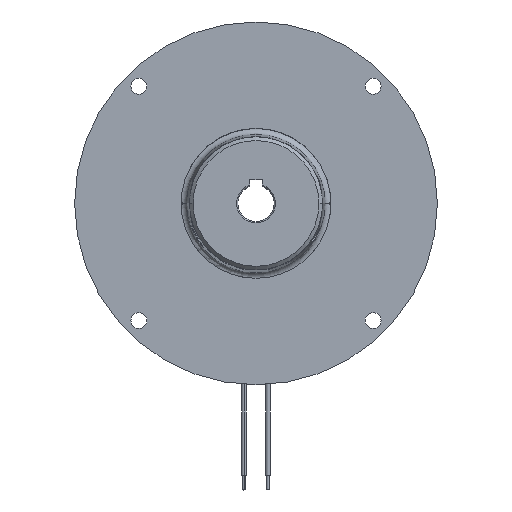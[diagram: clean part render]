
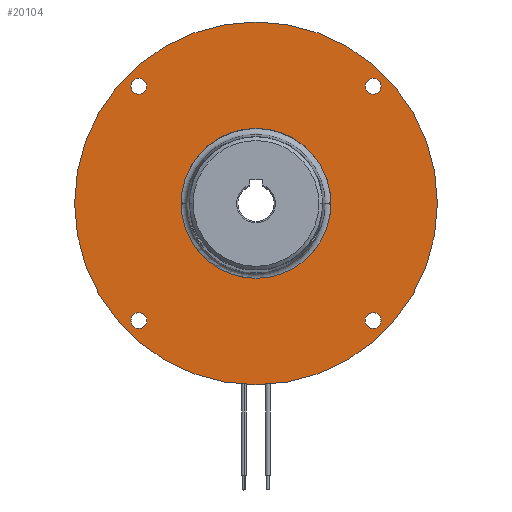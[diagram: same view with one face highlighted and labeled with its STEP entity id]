
A CAD part, top view. The second image highlights one B-rep face of the part: STEP entity #20104.
In plain terms, the highlighted planar face has unit normal (0, 0, 1).
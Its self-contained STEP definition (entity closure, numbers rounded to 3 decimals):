
#97 = CARTESIAN_POINT ( 'NONE',  ( -48.437, 48.437, 0. ) ) ;
#113 = CARTESIAN_POINT ( 'NONE',  ( 75., 0., 0. ) ) ;
#134 = FACE_BOUND ( 'NONE', #21891, .T. ) ;
#264 = DIRECTION ( 'NONE',  ( -1., 0., 0. ) ) ;
#572 = CIRCLE ( 'NONE', #20948, 3.3 ) ;
#879 = EDGE_CURVE ( 'NONE', #7376, #16693, #17655, .T. ) ;
#1322 = EDGE_CURVE ( 'NONE', #16693, #7376, #22269, .T. ) ;
#1673 = DIRECTION ( 'NONE',  ( 0., 0., -1. ) ) ;
#1733 = CARTESIAN_POINT ( 'NONE',  ( 48.437, -48.437, 0. ) ) ;
#1734 = CARTESIAN_POINT ( 'NONE',  ( -48.437, -48.437, 0. ) ) ;
#1747 = VERTEX_POINT ( 'NONE', #113 ) ;
#2095 = EDGE_CURVE ( 'NONE', #4593, #12553, #10661, .T. ) ;
#2392 = EDGE_CURVE ( 'NONE', #1747, #12167, #12516, .T. ) ;
#2899 = AXIS2_PLACEMENT_3D ( 'NONE', #19163, #13476, #20735 ) ;
#3082 = DIRECTION ( 'NONE',  ( -1., 0., 0. ) ) ;
#3193 = DIRECTION ( 'NONE',  ( 0., 0., -1. ) ) ;
#3275 = CARTESIAN_POINT ( 'NONE',  ( -45.137, -48.437, 0. ) ) ;
#3658 = EDGE_CURVE ( 'NONE', #23499, #8287, #9099, .T. ) ;
#3701 = EDGE_CURVE ( 'NONE', #8113, #16822, #8954, .T. ) ;
#3838 = DIRECTION ( 'NONE',  ( -1., 0., 0. ) ) ;
#4343 = DIRECTION ( 'NONE',  ( -1., 0., 0. ) ) ;
#4593 = VERTEX_POINT ( 'NONE', #16105 ) ;
#4636 = ORIENTED_EDGE ( 'NONE', *, *, #1322, .T. ) ;
#4905 = AXIS2_PLACEMENT_3D ( 'NONE', #17942, #1673, #3838 ) ;
#5170 = DIRECTION ( 'NONE',  ( -1., 0., 0. ) ) ;
#5620 = AXIS2_PLACEMENT_3D ( 'NONE', #21784, #16536, #264 ) ;
#5951 = EDGE_CURVE ( 'NONE', #16822, #8113, #13970, .T. ) ;
#6108 = CARTESIAN_POINT ( 'NONE',  ( -48.437, 48.437, 0. ) ) ;
#6698 = ORIENTED_EDGE ( 'NONE', *, *, #2095, .T. ) ;
#6717 = DIRECTION ( 'NONE',  ( 0., 0., -1. ) ) ;
#6740 = AXIS2_PLACEMENT_3D ( 'NONE', #19347, #3193, #3082 ) ;
#7033 = AXIS2_PLACEMENT_3D ( 'NONE', #1734, #16358, #5170 ) ;
#7043 = DIRECTION ( 'NONE',  ( -1., 0., 0. ) ) ;
#7355 = CARTESIAN_POINT ( 'NONE',  ( -75., 0., 0. ) ) ;
#7376 = VERTEX_POINT ( 'NONE', #3275 ) ;
#7439 = ORIENTED_EDGE ( 'NONE', *, *, #20410, .T. ) ;
#7547 = AXIS2_PLACEMENT_3D ( 'NONE', #21656, #23433, #12493 ) ;
#7774 = CARTESIAN_POINT ( 'NONE',  ( 48.437, -48.437, 0. ) ) ;
#7865 = EDGE_CURVE ( 'NONE', #17431, #15779, #572, .T. ) ;
#8113 = VERTEX_POINT ( 'NONE', #16595 ) ;
#8202 = AXIS2_PLACEMENT_3D ( 'NONE', #19665, #8921, #7043 ) ;
#8270 = DIRECTION ( 'NONE',  ( -1., 0., 0. ) ) ;
#8287 = VERTEX_POINT ( 'NONE', #16198 ) ;
#8664 = AXIS2_PLACEMENT_3D ( 'NONE', #1733, #18498, #16477 ) ;
#8921 = DIRECTION ( 'NONE',  ( 0., 0., -1. ) ) ;
#8954 = CIRCLE ( 'NONE', #8202, 31. ) ;
#9099 = CIRCLE ( 'NONE', #16183, 3.3 ) ;
#9201 = ORIENTED_EDGE ( 'NONE', *, *, #3701, .T. ) ;
#9689 = ORIENTED_EDGE ( 'NONE', *, *, #16834, .T. ) ;
#9743 = DIRECTION ( 'NONE',  ( -1., 0., 0. ) ) ;
#10396 = EDGE_LOOP ( 'NONE', ( #4636, #20607 ) ) ;
#10661 = CIRCLE ( 'NONE', #22828, 3.3 ) ;
#10671 = DIRECTION ( 'NONE',  ( 0., 0., -1. ) ) ;
#11242 = CARTESIAN_POINT ( 'NONE',  ( 45.137, -48.437, 0. ) ) ;
#12167 = VERTEX_POINT ( 'NONE', #7355 ) ;
#12493 = DIRECTION ( 'NONE',  ( -1., 0., 0. ) ) ;
#12494 = FACE_OUTER_BOUND ( 'NONE', #18163, .T. ) ;
#12516 = CIRCLE ( 'NONE', #16309, 75. ) ;
#12553 = VERTEX_POINT ( 'NONE', #11242 ) ;
#12811 = CARTESIAN_POINT ( 'NONE',  ( 51.737, 48.437, 0. ) ) ;
#12818 = DIRECTION ( 'NONE',  ( -1., 0., 0. ) ) ;
#12868 = FACE_BOUND ( 'NONE', #17107, .T. ) ;
#12886 = CIRCLE ( 'NONE', #15886, 3.3 ) ;
#12923 = EDGE_LOOP ( 'NONE', ( #13654, #7439 ) ) ;
#12967 = ORIENTED_EDGE ( 'NONE', *, *, #2392, .F. ) ;
#13258 = EDGE_CURVE ( 'NONE', #12553, #4593, #16276, .T. ) ;
#13476 = DIRECTION ( 'NONE',  ( 0., 0., -1. ) ) ;
#13654 = ORIENTED_EDGE ( 'NONE', *, *, #7865, .T. ) ;
#13787 = CARTESIAN_POINT ( 'NONE',  ( 0., 0., 0. ) ) ;
#13970 = CIRCLE ( 'NONE', #6740, 31. ) ;
#14375 = CIRCLE ( 'NONE', #7547, 3.3 ) ;
#14758 = FACE_BOUND ( 'NONE', #10396, .T. ) ;
#15020 = DIRECTION ( 'NONE',  ( 0., 0., -1. ) ) ;
#15363 = CARTESIAN_POINT ( 'NONE',  ( 45.137, 48.437, 0. ) ) ;
#15567 = DIRECTION ( 'NONE',  ( 0., 0., -1. ) ) ;
#15779 = VERTEX_POINT ( 'NONE', #12811 ) ;
#15886 = AXIS2_PLACEMENT_3D ( 'NONE', #97, #10671, #12818 ) ;
#16105 = CARTESIAN_POINT ( 'NONE',  ( 51.737, -48.437, 0. ) ) ;
#16183 = AXIS2_PLACEMENT_3D ( 'NONE', #6108, #18834, #4343 ) ;
#16198 = CARTESIAN_POINT ( 'NONE',  ( -51.737, 48.437, 0. ) ) ;
#16276 = CIRCLE ( 'NONE', #8664, 3.3 ) ;
#16309 = AXIS2_PLACEMENT_3D ( 'NONE', #13787, #15567, #9743 ) ;
#16358 = DIRECTION ( 'NONE',  ( 0., 0., -1. ) ) ;
#16365 = ORIENTED_EDGE ( 'NONE', *, *, #13258, .T. ) ;
#16397 = EDGE_LOOP ( 'NONE', ( #9201, #23505 ) ) ;
#16477 = DIRECTION ( 'NONE',  ( -1., 0., 0. ) ) ;
#16536 = DIRECTION ( 'NONE',  ( 0., 0., -1. ) ) ;
#16595 = CARTESIAN_POINT ( 'NONE',  ( -31., 0., 0. ) ) ;
#16693 = VERTEX_POINT ( 'NONE', #22938 ) ;
#16822 = VERTEX_POINT ( 'NONE', #23287 ) ;
#16834 = EDGE_CURVE ( 'NONE', #8287, #23499, #12886, .T. ) ;
#17107 = EDGE_LOOP ( 'NONE', ( #9689, #22505 ) ) ;
#17431 = VERTEX_POINT ( 'NONE', #15363 ) ;
#17655 = CIRCLE ( 'NONE', #7033, 3.3 ) ;
#17942 = CARTESIAN_POINT ( 'NONE',  ( 0., 75., 0. ) ) ;
#18163 = EDGE_LOOP ( 'NONE', ( #19589, #12967 ) ) ;
#18498 = DIRECTION ( 'NONE',  ( 0., 0., -1. ) ) ;
#18834 = DIRECTION ( 'NONE',  ( 0., 0., -1. ) ) ;
#19163 = CARTESIAN_POINT ( 'NONE',  ( -48.437, -48.437, 0. ) ) ;
#19347 = CARTESIAN_POINT ( 'NONE',  ( 0., 0., 0. ) ) ;
#19589 = ORIENTED_EDGE ( 'NONE', *, *, #22361, .F. ) ;
#19665 = CARTESIAN_POINT ( 'NONE',  ( 0., 0., 0. ) ) ;
#19749 = FACE_BOUND ( 'NONE', #16397, .T. ) ;
#20104 = ADVANCED_FACE ( 'NONE', ( #22145, #134, #14758, #12868, #12494, #19749 ), #20123, .F. ) ;
#20123 = PLANE ( 'NONE',  #4905 ) ;
#20410 = EDGE_CURVE ( 'NONE', #15779, #17431, #14375, .T. ) ;
#20607 = ORIENTED_EDGE ( 'NONE', *, *, #879, .T. ) ;
#20620 = DIRECTION ( 'NONE',  ( -1., 0., 0. ) ) ;
#20735 = DIRECTION ( 'NONE',  ( -1., 0., 0. ) ) ;
#20948 = AXIS2_PLACEMENT_3D ( 'NONE', #22693, #6717, #8270 ) ;
#21656 = CARTESIAN_POINT ( 'NONE',  ( 48.437, 48.437, 0. ) ) ;
#21784 = CARTESIAN_POINT ( 'NONE',  ( 0., 0., 0. ) ) ;
#21891 = EDGE_LOOP ( 'NONE', ( #16365, #6698 ) ) ;
#21965 = CIRCLE ( 'NONE', #5620, 75. ) ;
#22145 = FACE_BOUND ( 'NONE', #12923, .T. ) ;
#22269 = CIRCLE ( 'NONE', #2899, 3.3 ) ;
#22361 = EDGE_CURVE ( 'NONE', #12167, #1747, #21965, .T. ) ;
#22505 = ORIENTED_EDGE ( 'NONE', *, *, #3658, .T. ) ;
#22693 = CARTESIAN_POINT ( 'NONE',  ( 48.437, 48.437, 0. ) ) ;
#22828 = AXIS2_PLACEMENT_3D ( 'NONE', #7774, #15020, #20620 ) ;
#22938 = CARTESIAN_POINT ( 'NONE',  ( -51.737, -48.437, 0. ) ) ;
#23287 = CARTESIAN_POINT ( 'NONE',  ( 31., 0., 0. ) ) ;
#23301 = CARTESIAN_POINT ( 'NONE',  ( -45.137, 48.437, 0. ) ) ;
#23433 = DIRECTION ( 'NONE',  ( 0., 0., -1. ) ) ;
#23499 = VERTEX_POINT ( 'NONE', #23301 ) ;
#23505 = ORIENTED_EDGE ( 'NONE', *, *, #5951, .T. ) ;
